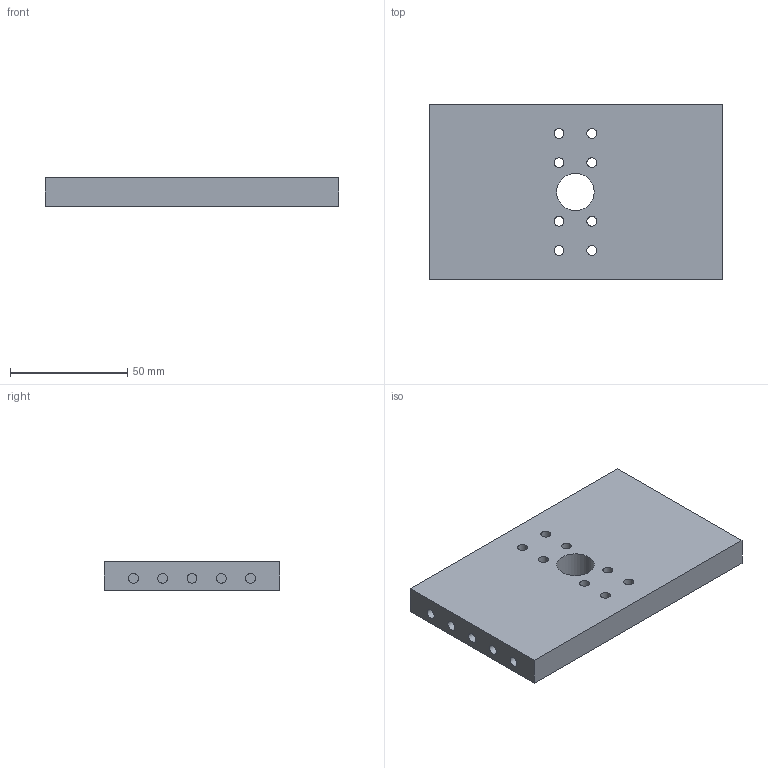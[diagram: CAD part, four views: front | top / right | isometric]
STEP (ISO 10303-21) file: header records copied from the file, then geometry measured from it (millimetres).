
FILE_DESCRIPTION(/* description */ (''),/* implementation_level */ '2;1');
FILE_NAME(/* name */ 'C:/Users/David Florian/Desktop/Cyber-Scooter-Step-Files/9-Board-Front.step',/* time_stamp */ '2020-12-14T22:16:34-06:00',/* author */ (''),/* organization */ (''),/* preprocessor_version */ 'ST-DEVELOPER v18.1',/* originating_system */ 'Autodesk Translation Framework v9.7.1.1290',/* authorisation */ '');
FILE_SCHEMA (('AUTOMOTIVE_DESIGN { 1 0 10303 214 3 1 1 }'));
Length unit declared in the file: millimetre
Products named in the file (1): Mounting-Plate-Base
Bounding box: 125.5 x 75 x 12 mm (x, y, z)
Volume: 105743.6 mm3; surface area: 28181.8 mm2
Topology: 1 solids, 1 shells, 35 faces, 69 edges, 46 vertices
Faces by surface type: cylinder 19, plane 16
Full cylindrical faces by diameter (mm): 4.2 x18, 16 x1
Entity records: 990 total; most frequent: DIRECTION 179, CARTESIAN_POINT 151, ORIENTED_EDGE 138, AXIS2_PLACEMENT_3D 74, EDGE_CURVE 69, EDGE_LOOP 63, VERTEX_POINT 46, CIRCLE 38
